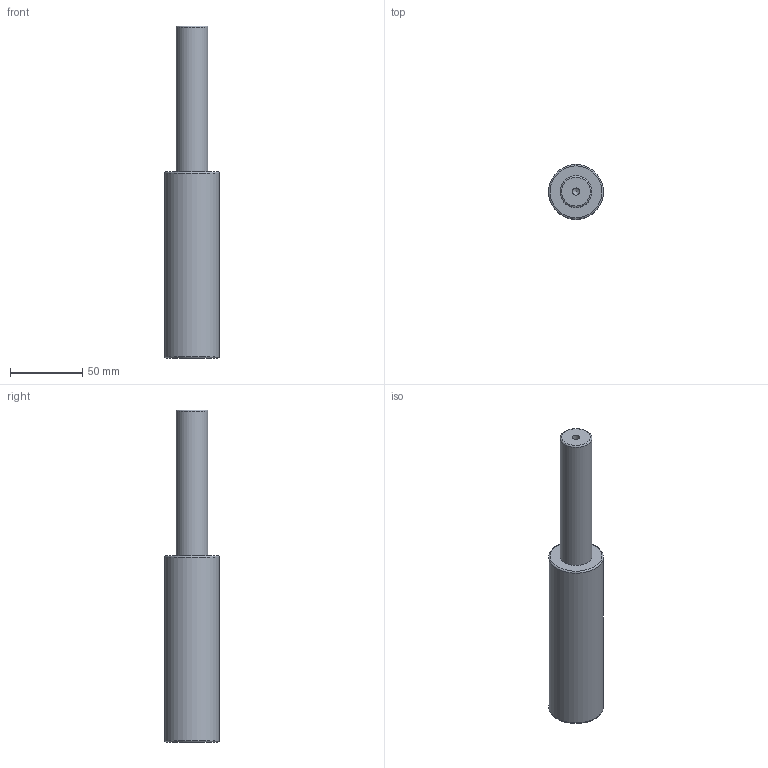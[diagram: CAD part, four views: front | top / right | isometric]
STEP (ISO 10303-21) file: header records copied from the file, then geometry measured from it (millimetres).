
FILE_DESCRIPTION(/* description */ (''),/* implementation_level */ '2;1');
FILE_NAME(/* name */ 'NV5-SMLX.38x100.stp',/* time_stamp */ '2018-08-31T16:08:36+02:00',/* author */ (''),/* organization */ (''),/* preprocessor_version */ 'ST-DEVELOPER v16',/* originating_system */ 'SIEMENS PLM Software NX 10.0',/* authorisation */ '');
FILE_SCHEMA (('AUTOMOTIVE_DESIGN { 1 0 10303 214 3 1 1 1 }'));
Length unit declared in the file: millimetre
Products named in the file (1): NV5-SMLX.38x100
Bounding box: 38 x 38 x 230 mm (x, y, z)
Volume: 183797.4 mm3; surface area: 25039.4 mm2
Topology: 1 solids, 1 shells, 12 faces, 24 edges, 15 vertices
Faces by surface type: cylinder 4, torus 3, plane 3, cone 2
Full cylindrical faces by diameter (mm): 5 x1, 6.8 x1, 22 x1, 38 x1
Entity records: 266 total; most frequent: DIRECTION 48, CARTESIAN_POINT 37, FACE_BOUND 24, AXIS2_PLACEMENT_3D 24, EDGE_LOOP 22, ORIENTED_EDGE 22, VERTEX_POINT 13, ADVANCED_FACE 12
